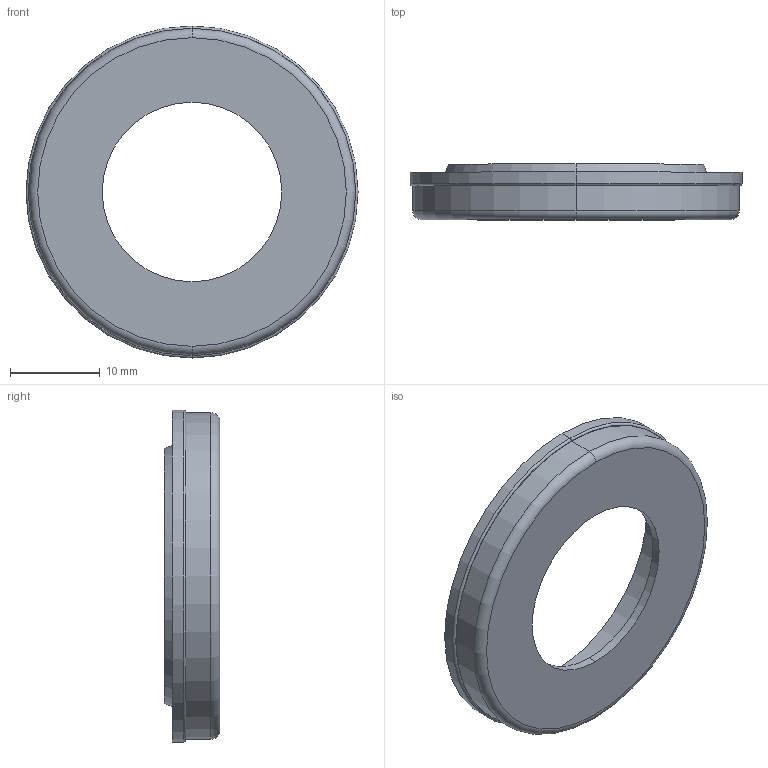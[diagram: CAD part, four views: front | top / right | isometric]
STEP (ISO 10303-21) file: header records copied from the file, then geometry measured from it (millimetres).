
FILE_DESCRIPTION (( 'STEP AP203' ), '1' );
FILE_NAME ('Filmdose_Deckel.STEP', '2020-12-15T00:52:59', ( '' ), ( '' ), 'SwSTEP 2.0', 'SolidWorks 2017', '' );
FILE_SCHEMA (( 'CONFIG_CONTROL_DESIGN' ));
Length unit declared in the file: millimetre
Products named in the file (1): Filmdose_Deckel
Bounding box: 37 x 6.2 x 37 mm (x, y, z)
Volume: 1814.1 mm3; surface area: 3408.1 mm2
Topology: 1 solids, 1 shells, 26 faces, 52 edges, 32 vertices
Faces by surface type: cylinder 12, plane 6, torus 4, cone 4
Entity records: 769 total; most frequent: DIRECTION 142, CARTESIAN_POINT 111, ORIENTED_EDGE 104, AXIS2_PLACEMENT_3D 63, EDGE_CURVE 52, CIRCLE 36, VERTEX_POINT 32, EDGE_LOOP 32
